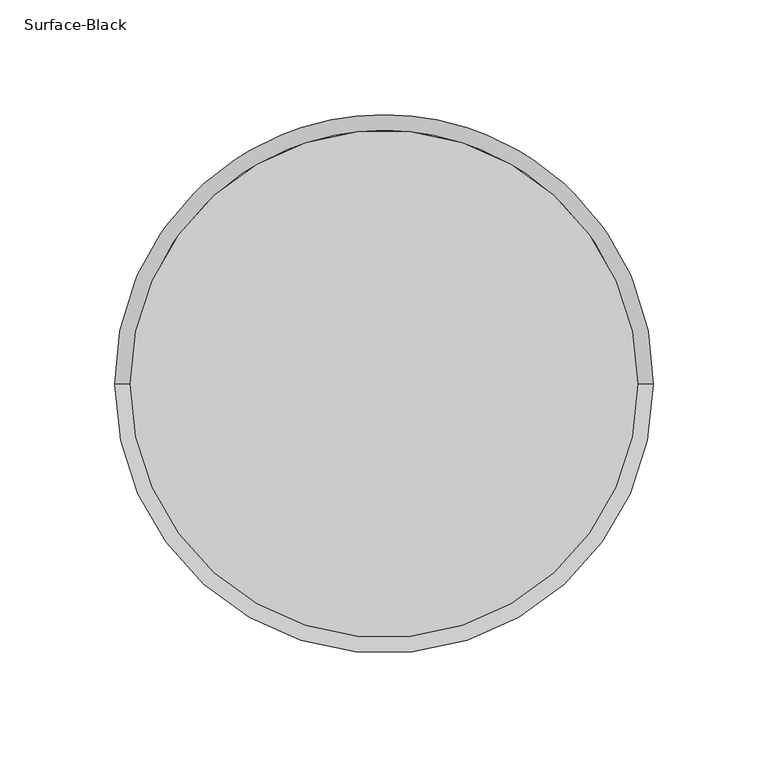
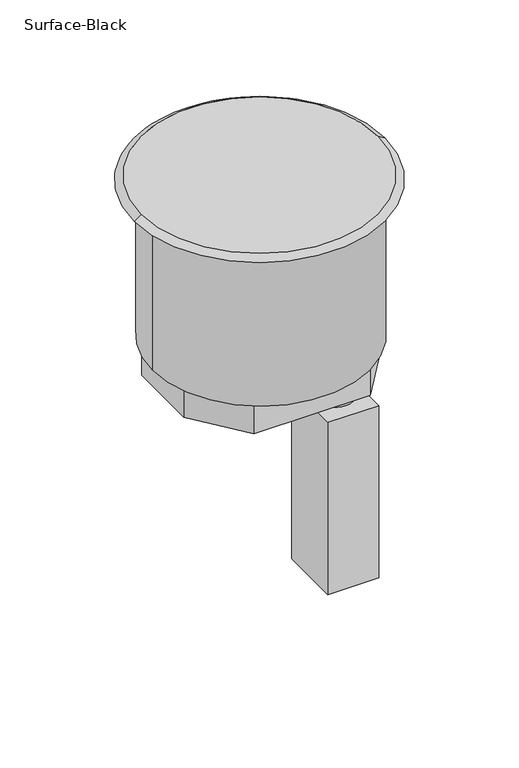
"""IFC4 building model written with IfcOpenShell, lengths in millimetres: proxy geometry, Poke_Thru_Device-Evolution_8AT_Series-Wiremold-Prewired : Surface-Black."""

from ifc_helpers import new_model, si_unit, point, frame, frame_2d, origin, origin_with_axes, place, context, project, spatial, polyline, circle_curve, trimmed, segment, composite_curve, outline, extrude, source, transform, mapped, element, save
from ifc_brep_helpers import plane_surface, cylinder_surface, revolved_surface, advanced_brep


def surface_black_41f3d47d(model_context):
    return source(origin(), model_context, "Body", "SolidModel", [
        advanced_brep(
        [(109.3215871, 0.0, 4.318), (-112.0648129, 0.0, 4.318), (116.1033871, 0.0, 0.0), (-118.8466129, 0.0, 0.0)],
        [
            (0, 1, circle_curve(frame((-1.3716129, 0.0, 4.318), z_axis=(0.0, -3.9192416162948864e-12, 1.0), x_axis=(1.0, 0.0, 0.0)), 110.6932)),
            (1, 0, circle_curve(frame((-1.3716129, 0.0, 4.318), z_axis=(0.0, -3.9192416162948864e-12, 1.0), x_axis=(-1.0, 0.0, 0.0)), 110.6932)),
            (2, 3, circle_curve(frame((-1.3716129, 0.0, 0.0), z_axis=(0.0, 3.9192416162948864e-12, -1.0), x_axis=(-1.0, 0.0, 0.0)), 117.475)),
            (3, 2, circle_curve(frame((-1.3716129, 0.0, 0.0), z_axis=(0.0, 3.9192416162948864e-12, -1.0), x_axis=(1.0, 0.0, 0.0)), 117.475)),
            (3, 1),
            (0, 2),
        ],
        [
            plane_surface(frame((-1.3716129, 0.0, 4.318), z_axis=(0.0, 0.0, 1.0), x_axis=(0.0, 1.0, 0.0))),
            plane_surface(frame((-1.3716129, 0.0, 0.0), z_axis=(0.0, 0.0, -1.0), x_axis=(0.0, 1.0, 0.0))),
            revolved_surface(polyline([(109.32158710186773, 0.0, 4.317999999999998), (116.1033871, 0.0, 0.0)]), (-1.3716129, 0.0, 74.7968165), (0.0, 3.9192416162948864e-12, -1.0)),
            revolved_surface(polyline([(-112.06481290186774, 0.0, 4.317999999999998), (-118.8466129, 0.0, 0.0)]), (-1.3716129, 0.0, 74.7968165), (0.0, 3.9192416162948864e-12, -1.0)),
        ],
        [
            (0, [[1, 2]]),
            (1, [[3, 4]]),
            (2, [[-4, 5, -1, 6]]),
            (3, [[-3, -6, -2, -5]]),
        ],
    ),
        advanced_brep(
        [(95.25, 0.0, -6.35), (-95.25, 0.0, -6.35), (-101.6, 0.0, -153.67), (101.6, 0.0, -153.67), (101.6, 0.0, -6.35), (-101.6, 0.0, -6.35), (-101.6, 0.0, 0.0), (101.6, 0.0, 0.0), (-95.25, 0.0, 0.0), (95.25, 0.0, 0.0)],
        [
            (0, 1, circle_curve(frame((0.0, 0.0, -6.35), z_axis=(0.0, 0.0, 1.0), x_axis=(1.0, 0.0, 0.0)), 95.25)),
            (1, 0, circle_curve(frame((0.0, 0.0, -6.35), z_axis=(0.0, 0.0, 1.0), x_axis=(1.0, 0.0, 0.0)), 95.25)),
            (2, 3, circle_curve(frame((0.0, 0.0, -153.67), z_axis=(0.0, 0.0, -1.0), x_axis=(1.0, 0.0, 0.0)), 101.6)),
            (3, 2, circle_curve(frame((0.0, 0.0, -153.67), z_axis=(0.0, 0.0, -1.0), x_axis=(1.0, 0.0, 0.0)), 101.6)),
            (3, 4),
            (4, 5, circle_curve(frame((0.0, 0.0, -6.35), z_axis=(0.0, 0.0, -1.0), x_axis=(1.0, 0.0, 0.0)), 101.6)),
            (5, 2),
            (5, 4, circle_curve(frame((0.0, 0.0, -6.35), z_axis=(0.0, 0.0, -1.0), x_axis=(1.0, 0.0, 0.0)), 101.6)),
            (6, 7, circle_curve(origin_with_axes(), 101.6)),
            (7, 6, circle_curve(origin_with_axes(), 101.6)),
            (8, 9, circle_curve(frame((0.0, 0.0, 0.0), z_axis=(0.0, 0.0, -1.0), x_axis=(1.0, 0.0, 0.0)), 95.25)),
            (9, 8, circle_curve(frame((0.0, 0.0, 0.0), z_axis=(0.0, 0.0, -1.0), x_axis=(1.0, 0.0, 0.0)), 95.25)),
            (6, 5),
            (4, 7),
            (8, 1),
            (0, 9),
        ],
        [
            plane_surface(frame((101.6, 0.0, -6.35), z_axis=(0.0, 0.0, 1.0), x_axis=(0.0, 1.0, 0.0))),
            plane_surface(frame((101.6, 0.0, -153.67), z_axis=(0.0, 0.0, -1.0), x_axis=(0.0, -1.0, 0.0))),
            cylinder_surface(frame((0.0, 0.0, -153.67), z_axis=(0.0, 0.0, 1.0), x_axis=(1.0, 0.0, 0.0)), 101.6),
            plane_surface(frame((101.6, 0.0, 0.0), z_axis=(0.0, 0.0, 1.0), x_axis=(0.0, 1.0, 0.0))),
            cylinder_surface(frame((0.0, 0.0, -6.35), z_axis=(0.0, 0.0, 1.0), x_axis=(1.0, 0.0, 0.0)), 101.6),
            revolved_surface(polyline([(95.25, 0.0, -6.35), (95.25, 0.0, 0.0)]), (0.0, 0.0, 0.0), (0.0, 0.0, -1.0)),
        ],
        [
            (0, [[1, 2]]),
            (1, [[3, 4]]),
            (2, [[-4, 5, 6, 7]]),
            (2, [[-3, -7, 8, -5]]),
            (3, [[9, 10], [11, 12]]),
            (4, [[-9, 13, -6, 14]]),
            (4, [[-10, -14, -8, -13]]),
            (5, [[-11, 15, -1, 16]]),
            (5, [[-12, -16, -2, -15]]),
        ],
    ),
        extrude(outline(polyline([(54.61, 82.55), (92.075, 34.036), (92.075, -34.036), (54.61, -82.55), (-54.61, -82.55), (-92.075, -34.036), (-92.075, 34.036), (-54.61, 82.55), (54.61, 82.55)])), frame((0.0, 0.0, -182.88), z_axis=(0.0, 0.0, 1.0), x_axis=(1.0, 0.0, 0.0)), (0.0, 0.0, 1.0), 29.21),
        extrude(outline(composite_curve([segment(trimmed(circle_curve(frame_2d((69.469, -0.229668)), 11.1252), [point((58.3438, -0.229668))], [point((80.5942, -0.229668))], False, "CARTESIAN"), True, "CONTINUOUS"), segment(trimmed(circle_curve(frame_2d((69.469, -0.229668)), 11.1252), [point((80.5942, -0.229668))], [point((58.3438, -0.229668))], False, "CARTESIAN"), True, "CONTINUOUS")], self_intersect=False)), frame((0.0, 0.0, -218.7956), z_axis=(0.0, 0.0, 1.0), x_axis=(1.0, 0.0, 0.0)), (0.0, 0.0, 1.0), 35.9156),
        extrude(outline(composite_curve([segment(trimmed(circle_curve(frame_2d((69.469, -0.229668)), 16.0528), [point((53.4162, -0.229668))], [point((85.5218, -0.229668))], False, "CARTESIAN"), True, "CONTINUOUS"), segment(trimmed(circle_curve(frame_2d((69.469, -0.229668)), 16.0528), [point((85.5218, -0.229668))], [point((53.4162, -0.229668))], False, "CARTESIAN"), True, "CONTINUOUS")], self_intersect=False)), frame((0.0, 0.0, -239.1156), z_axis=(0.0, 0.0, 1.0), x_axis=(1.0, 0.0, 0.0)), (0.0, 0.0, 1.0), 20.32),
        extrude(outline(polyline([(93.2688, 28.980332), (93.2688, -29.439668), (45.6692, -29.439668), (45.6692, 28.980332), (93.2688, 28.980332)])), frame((0.0, 0.0, -409.575), z_axis=(0.0, 0.0, 1.0), x_axis=(1.0, 0.0, 0.0)), (0.0, 0.0, 1.0), 170.4594),
        extrude(outline(composite_curve([segment(polyline([(-38.1, -52.3875), (38.1, -52.3875), (38.1, -80.9920196)]), True, "CONTINUOUS"), segment(trimmed(circle_curve(frame_2d((0.0, -34.036)), 60.4688166), [point((38.1, -80.9920196))], [point((-38.1, -80.9920196))], False, "CARTESIAN"), True, "CONTINUOUS"), segment(polyline([(-38.1, -80.9920196), (-38.1, -52.3875)]), True, "CONTINUOUS")], self_intersect=False)), frame((0.0, 0.0, -6.35), z_axis=(0.0, 0.0, 1.0), x_axis=(1.0, 0.0, 0.0)), (0.0, 0.0, 1.0), 3.175),
        extrude(outline(composite_curve([segment(polyline([(-38.1, 52.3875), (-38.1, 80.9920196)]), True, "CONTINUOUS"), segment(trimmed(circle_curve(frame_2d((0.0, 34.036)), 60.4688166), [point((-38.1, 80.9920196))], [point((38.1, 80.9920196))], False, "CARTESIAN"), True, "CONTINUOUS"), segment(polyline([(38.1, 80.9920196), (38.1, 52.3875), (-38.1, 52.3875)]), True, "CONTINUOUS")], self_intersect=False)), frame((0.0, 0.0, -6.35), z_axis=(0.0, 0.0, 1.0), x_axis=(1.0, 0.0, 0.0)), (0.0, 0.0, 1.0), 3.175),
    ])


if __name__ == "__main__":
    model = new_model("IFC4")
    model_context = context("Model", 3, world=origin())
    ifc_project = project(units=[si_unit("LENGTHUNIT", "METRE", prefix="MILLI")], contexts=[model_context])
    site = spatial("IfcSite", under=ifc_project)
    building = spatial("IfcBuilding", under=site)
    placement = place(None, origin())
    surface_black_shape = surface_black_41f3d47d(model_context)
    element("IfcBuildingElementProxy", 1, Name="Poke_Thru_Device-Evolution_8AT_Series-Wiremold-Prewired : Surface-Black", ObjectType="Poke_Thru_Device-Evolution_8AT_Series-Wiremold-Prewired : Surface-Black", at=placement, inside=building, context=model_context, shape_type="MappedRepresentation", body=[
        mapped(surface_black_shape, transform((0.0, 0.0, 0.0), x_axis=(1.0, 0.0, 0.0), y_axis=(0.0, 1.0, 0.0), z_axis=(0.0, 0.0, 1.0))),
    ])
    save(model, "model.ifc")
